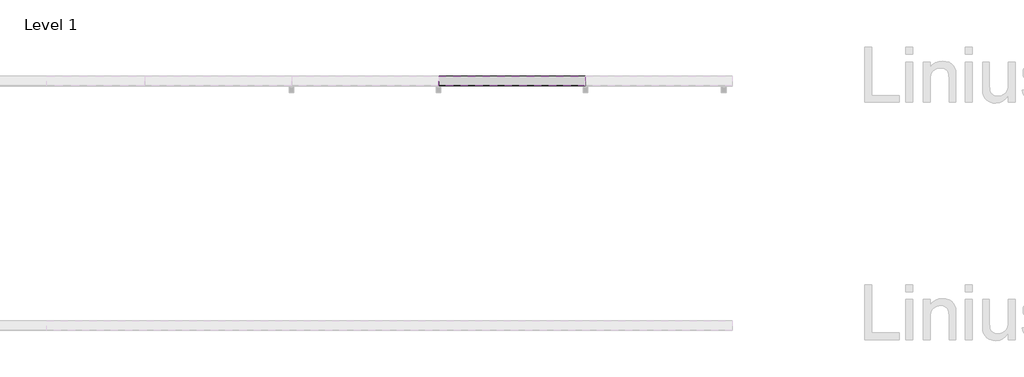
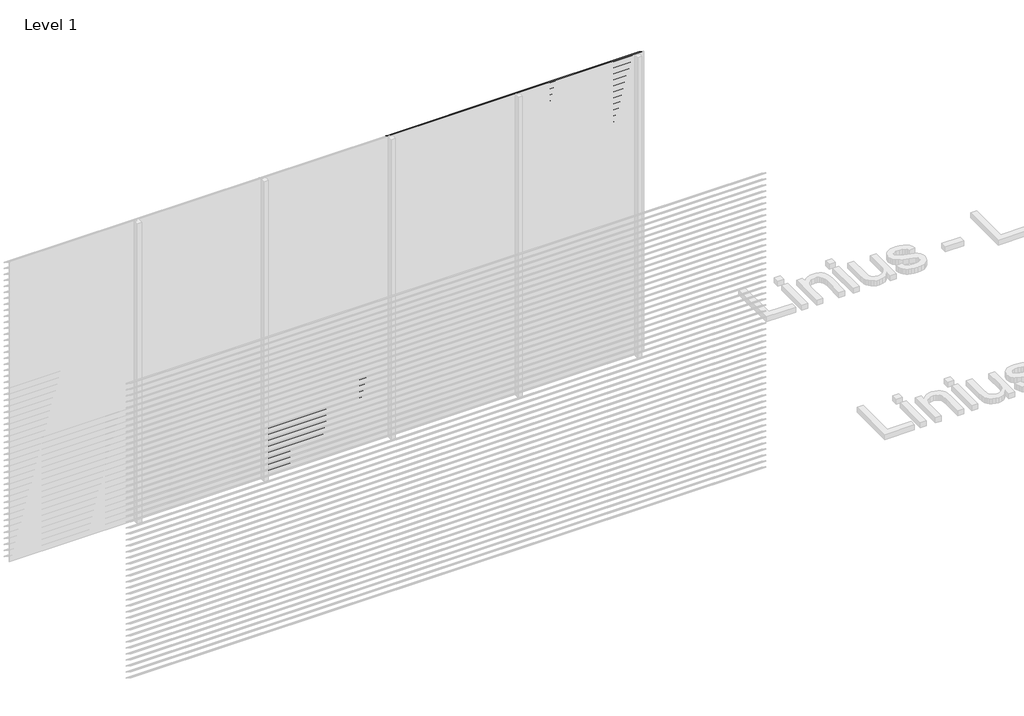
# One storey, part 68 of 153: 84 proxies.
"""IFC4 building model written with IfcOpenShell, lengths in millimetres."""

import ifcopenshell
import ifcopenshell.guid

model = None  # the IFC model being written
_history = None  # IfcOwnerHistory: only IFC2X3 demands one
_inside = {}  # id of a spatial element -> (the spatial element, [elements in it])
_under = {}  # id of a project, library or spatial element -> (it, [spatial elements below it])
_declared = {}  # id of a project -> (the project, [libraries it declares])
_typed = {}  # id of a type object -> (the type object, [elements of that type])
_made_of = {}  # id of a material, layer set ... -> (it, [elements and type objects made of it])


def new_model(schema):
    """Start an empty IFC model of exactly this schema.

    Asked for "IFC4X3", IfcOpenShell would pick the latest addendum, in which some entities
    have other attributes; the version numbers below select the first issue.
    IFC2X3 requires an IfcOwnerHistory on every rooted entity: one is made here for all.
    """
    global model, _history
    if schema == "IFC4X3":
        model = ifcopenshell.file(schema_version=(4, 3, 0, 0))
    else:
        model = ifcopenshell.file(schema=schema)
    _inside.clear()
    _under.clear()
    _declared.clear()
    _typed.clear()
    _made_of.clear()
    _history = None
    if model.schema == "IFC2X3":
        org = make("IfcOrganization", Name="unknown")
        user = make(
            "IfcPersonAndOrganization",
            ThePerson=make("IfcPerson", FamilyName="unknown"),
            TheOrganization=org,
        )
        app = make(
            "IfcApplication",
            ApplicationDeveloper=org,
            Version="unknown",
            ApplicationFullName="unknown",
            ApplicationIdentifier="unknown",
        )
        _history = make(
            "IfcOwnerHistory",
            OwningUser=user,
            OwningApplication=app,
            ChangeAction="ADDED",
            CreationDate=0,
        )
    return model


def make(cls, **values):
    """One entity of the class cls with the attributes given. An attribute that is None is left unset."""
    return model.create_entity(
        cls, **{name: value for name, value in values.items() if value is not None}
    )


def rooted(cls, **values):
    """An entity with a GlobalId (a new one), such as an element, a storey or a relation."""
    return make(cls, GlobalId=ifcopenshell.guid.new(), OwnerHistory=_history, **values)


def si_unit(unit_type, name, prefix=None):
    """IfcSIUnit, for example si_unit("LENGTHUNIT", "METRE", prefix="MILLI")."""
    return make("IfcSIUnit", UnitType=unit_type, Prefix=prefix, Name=name)


def assignment(units):
    """IfcUnitAssignment: the units of a project."""
    return None if units is None else make("IfcUnitAssignment", Units=units)


def point(xyz):
    """IfcCartesianPoint."""
    return None if xyz is None else make("IfcCartesianPoint", Coordinates=xyz)


def direction(xyz):
    """IfcDirection."""
    return None if xyz is None else make("IfcDirection", DirectionRatios=xyz)


def frame(location, z_axis=None, x_axis=None):
    """IfcAxis2Placement3D, a coordinate frame: its origin and axes. An axis left out is left unset."""
    return make(
        "IfcAxis2Placement3D",
        Location=point(location),
        Axis=direction(z_axis),
        RefDirection=direction(x_axis),
    )


def origin():
    """The frame at (0, 0, 0) with its axes left unset."""
    return frame((0.0, 0.0, 0.0))


def place(relative_to, where):
    """IfcLocalPlacement: puts the frame where relative to a parent placement (None: the world)."""
    return make(
        "IfcLocalPlacement", PlacementRelTo=relative_to, RelativePlacement=where
    )


def context(
    kind, dimensions, precision=None, world=None, true_north=None, identifier=None
):
    """IfcGeometricRepresentationContext, for example the 3D "Model" context."""
    return make(
        "IfcGeometricRepresentationContext",
        ContextIdentifier=identifier,
        ContextType=kind,
        CoordinateSpaceDimension=dimensions,
        Precision=precision,
        WorldCoordinateSystem=world,
        TrueNorth=true_north,
    )


def project(units=None, contexts=None):
    """IfcProject with its units and contexts."""
    return rooted(
        "IfcProject",
        Name="project",
        RepresentationContexts=contexts,
        UnitsInContext=assignment(units),
    )


def spatial(cls, under=None, at=None, **own):
    """A site, building, storey or space (cls), placed at a placement, below another one or the project."""
    s = rooted(cls, ObjectPlacement=at, **own)
    if under is not None:
        _under.setdefault(under.id(), (under, []))[1].append(s)
    return s


def polyline(points):
    """IfcPolyline through the points."""
    return make("IfcPolyline", Points=[point(p) for p in points])


def outline(outer, holes=None, kind="AREA"):
    """IfcArbitraryClosedProfileDef: a profile drawn as a closed curve; with holes, ...WithVoids."""
    if holes is None:
        return make("IfcArbitraryClosedProfileDef", ProfileType=kind, OuterCurve=outer)
    return make(
        "IfcArbitraryProfileDefWithVoids",
        ProfileType=kind,
        OuterCurve=outer,
        InnerCurves=holes,
    )


def extrude(swept, where, along, depth):
    """IfcExtrudedAreaSolid: the profile swept, set in the frame where, extruded along a direction by depth."""
    return make(
        "IfcExtrudedAreaSolid",
        SweptArea=swept,
        Position=where,
        ExtrudedDirection=direction(along),
        Depth=depth,
    )


def shape(context_of_items, identifier, shape_type, items):
    """IfcShapeRepresentation: the items that make up one representation, for example the "Body"."""
    return make(
        "IfcShapeRepresentation",
        ContextOfItems=context_of_items,
        RepresentationIdentifier=identifier,
        RepresentationType=shape_type,
        Items=items,
    )


def made_of(thing, what):
    """Note that an element or type object is made of a material, layer set ...; save() writes the relation."""
    if what is not None:
        _made_of.setdefault(what.id(), (what, []))[1].append(thing)
    return thing


def element(
    cls,
    number,
    at=None,
    inside=None,
    cuts=None,
    type_object=None,
    material=None,
    context=None,
    identifier="Body",
    shape_type=None,
    held_by="IfcProductDefinitionShape",
    body=None,
    shapes=None,
    **own,
):
    """One element of the class cls, such as IfcWall. Its Tag is "e" and its number.

    at: its placement. inside: the storey or other place that contains it. cuts: it is an
    opening in that element (IfcRelVoidsElement). A single representation is given by context,
    identifier, shape_type and body (its items); several are given by shapes. held_by: the class
    of the entity that holds the representations. save() writes the other relations.
    """
    e = rooted(cls, Tag="e%d" % number, ObjectPlacement=at, **own)
    if body is not None:
        shapes = [shape(context, identifier, shape_type, body)]
    if shapes is not None:
        e.Representation = make(held_by, Representations=shapes)
    if inside is not None:
        _inside.setdefault(inside.id(), (inside, []))[1].append(e)
    if cuts is not None:
        rooted(
            "IfcRelVoidsElement", RelatingBuildingElement=cuts, RelatedOpeningElement=e
        )
    if type_object is not None:
        _typed.setdefault(type_object.id(), (type_object, []))[1].append(e)
    return made_of(e, material)


def aggregate(whole, parts):
    """IfcRelAggregates: a whole, such as a stair, and the parts it consists of."""
    return rooted("IfcRelAggregates", RelatingObject=whole, RelatedObjects=parts)


def save(model, path):
    """Write the relations noted so far, then the file.

    IfcRelAggregates (storeys below a building ...), IfcRelContainedInSpatialStructure (elements
    in a storey), IfcRelDefinesByType, IfcRelAssociatesMaterial and IfcRelDeclares: one each for
    every whole, place, type object, material and project.
    """
    for whole, parts in _under.values():
        aggregate(whole, parts)
    for where, things in _inside.values():
        rooted(
            "IfcRelContainedInSpatialStructure",
            RelatedElements=things,
            RelatingStructure=where,
        )
    for kind, things in _typed.values():
        rooted("IfcRelDefinesByType", RelatedObjects=things, RelatingType=kind)
    for what, things in _made_of.values():
        rooted("IfcRelAssociatesMaterial", RelatedObjects=things, RelatingMaterial=what)
    for by, libraries in _declared.values():
        rooted("IfcRelDeclares", RelatingContext=by, RelatedDefinitions=libraries)
    model.write(path)


model = new_model("IFC4")

# Units and contexts
model_context = context("Model", 3, world=origin())
ifc_project = project(units=[si_unit("LENGTHUNIT", "METRE", prefix="MILLI")], contexts=[model_context])

# Site, building, storey
site = spatial("IfcSite", under=ifc_project)
building = spatial("IfcBuilding", under=site)
storey = spatial("IfcBuildingStorey", under=building, Name="Level 1", Elevation=0.0)

# Proxies
placement = place(None, origin())
element("IfcBuildingElementProxy", 1, Name="Wall Sweeps", at=placement, inside=storey, context=model_context, shape_type="SweptSolid", body=[
    extrude(outline(polyline([(36561.0540136, 786.0), (36561.0540136, 780.0), (36559.8040136, 780.7216933), (36559.8040136, 785.2538091), (36483.0540136, 833.9915103), (36483.0540136, 840.0), (36484.3040136, 840.0), (36484.3040136, 834.7377012), (36561.0540136, 786.0)])), frame((2866.6208097, 0.0, 0.0), z_axis=(1.0, 0.0, 0.0), x_axis=(0.0, 1.0, 0.0)), (0.0, 0.0, 1.0), 1199.9999999),
])
element("IfcBuildingElementProxy", 2, Name="Wall Sweeps", at=placement, inside=storey, context=model_context, shape_type="SweptSolid", body=[
    extrude(outline(polyline([(36561.0540136, 726.0), (36561.0540136, 720.0), (36559.8040136, 720.7216933), (36559.8040136, 725.2538091), (36483.0540136, 773.9915103), (36483.0540136, 780.0), (36484.3040136, 780.0), (36484.3040136, 774.7377012), (36561.0540136, 726.0)])), frame((2866.6208097, 0.0, 0.0), z_axis=(1.0, 0.0, 0.0), x_axis=(0.0, 1.0, 0.0)), (0.0, 0.0, 1.0), 1199.9999999),
])
element("IfcBuildingElementProxy", 3, Name="Wall Sweeps", at=placement, inside=storey, context=model_context, shape_type="SweptSolid", body=[
    extrude(outline(polyline([(36561.0540136, 666.0), (36561.0540136, 660.0), (36559.8040136, 660.7216933), (36559.8040136, 665.2538091), (36483.0540136, 713.9915103), (36483.0540136, 720.0), (36484.3040136, 720.0), (36484.3040136, 714.7377012), (36561.0540136, 666.0)])), frame((2866.6208097, 0.0, 0.0), z_axis=(1.0, 0.0, 0.0), x_axis=(0.0, 1.0, 0.0)), (0.0, 0.0, 1.0), 1199.9999999),
])
element("IfcBuildingElementProxy", 4, Name="Wall Sweeps", at=placement, inside=storey, context=model_context, shape_type="SweptSolid", body=[
    extrude(outline(polyline([(36561.0540136, 606.0), (36561.0540136, 600.0), (36559.8040136, 600.7216933), (36559.8040136, 605.2538091), (36483.0540136, 653.9915103), (36483.0540136, 660.0), (36484.3040136, 660.0), (36484.3040136, 654.7377012), (36561.0540136, 606.0)])), frame((2866.6208097, 0.0, 0.0), z_axis=(1.0, 0.0, 0.0), x_axis=(0.0, 1.0, 0.0)), (0.0, 0.0, 1.0), 1199.9999999),
])
element("IfcBuildingElementProxy", 5, Name="Wall Sweeps", at=placement, inside=storey, context=model_context, shape_type="SweptSolid", body=[
    extrude(outline(polyline([(36561.0540136, 546.0), (36561.0540136, 540.0), (36559.8040136, 540.7216933), (36559.8040136, 545.2538091), (36483.0540136, 593.9915103), (36483.0540136, 600.0), (36484.3040136, 600.0), (36484.3040136, 594.7377012), (36561.0540136, 546.0)])), frame((2866.6208097, 0.0, 0.0), z_axis=(1.0, 0.0, 0.0), x_axis=(0.0, 1.0, 0.0)), (0.0, 0.0, 1.0), 1199.9999999),
])
element("IfcBuildingElementProxy", 6, Name="Wall Sweeps", at=placement, inside=storey, context=model_context, shape_type="SweptSolid", body=[
    extrude(outline(polyline([(36561.0540136, 486.0), (36561.0540136, 480.0), (36559.8040136, 480.7216933), (36559.8040136, 485.2538091), (36483.0540136, 533.9915103), (36483.0540136, 540.0), (36484.3040136, 540.0), (36484.3040136, 534.7377012), (36561.0540136, 486.0)])), frame((2866.6208097, 0.0, 0.0), z_axis=(1.0, 0.0, 0.0), x_axis=(0.0, 1.0, 0.0)), (0.0, 0.0, 1.0), 1199.9999999),
])
element("IfcBuildingElementProxy", 7, Name="Wall Sweeps", at=placement, inside=storey, context=model_context, shape_type="SweptSolid", body=[
    extrude(outline(polyline([(36561.0540136, 426.0), (36561.0540136, 420.0), (36559.8040136, 420.7216933), (36559.8040136, 425.2538091), (36483.0540136, 473.9915103), (36483.0540136, 480.0), (36484.3040136, 480.0), (36484.3040136, 474.7377012), (36561.0540136, 426.0)])), frame((2866.6208097, 0.0, 0.0), z_axis=(1.0, 0.0, 0.0), x_axis=(0.0, 1.0, 0.0)), (0.0, 0.0, 1.0), 1199.9999999),
])
element("IfcBuildingElementProxy", 8, Name="Wall Sweeps", at=placement, inside=storey, context=model_context, shape_type="SweptSolid", body=[
    extrude(outline(polyline([(36561.0540136, 366.0), (36561.0540136, 360.0), (36559.8040136, 360.7216933), (36559.8040136, 365.2538091), (36483.0540136, 413.9915103), (36483.0540136, 420.0), (36484.3040136, 420.0), (36484.3040136, 414.7377012), (36561.0540136, 366.0)])), frame((2866.6208097, 0.0, 0.0), z_axis=(1.0, 0.0, 0.0), x_axis=(0.0, 1.0, 0.0)), (0.0, 0.0, 1.0), 1199.9999999),
])
element("IfcBuildingElementProxy", 9, Name="Wall Sweeps", at=placement, inside=storey, context=model_context, shape_type="SweptSolid", body=[
    extrude(outline(polyline([(36561.0540136, 306.0), (36561.0540136, 300.0), (36559.8040136, 300.7216933), (36559.8040136, 305.2538091), (36483.0540136, 353.9915103), (36483.0540136, 360.0), (36484.3040136, 360.0), (36484.3040136, 354.7377012), (36561.0540136, 306.0)])), frame((2866.6208097, 0.0, 0.0), z_axis=(1.0, 0.0, 0.0), x_axis=(0.0, 1.0, 0.0)), (0.0, 0.0, 1.0), 1199.9999999),
])
element("IfcBuildingElementProxy", 10, Name="Wall Sweeps", at=placement, inside=storey, context=model_context, shape_type="SweptSolid", body=[
    extrude(outline(polyline([(36561.0540136, 246.0), (36561.0540136, 240.0), (36559.8040136, 240.7216933), (36559.8040136, 245.2538091), (36483.0540136, 293.9915103), (36483.0540136, 300.0), (36484.3040136, 300.0), (36484.3040136, 294.7377012), (36561.0540136, 246.0)])), frame((2866.6208097, 0.0, 0.0), z_axis=(1.0, 0.0, 0.0), x_axis=(0.0, 1.0, 0.0)), (0.0, 0.0, 1.0), 1199.9999999),
])
element("IfcBuildingElementProxy", 11, Name="Wall Sweeps", at=placement, inside=storey, context=model_context, shape_type="SweptSolid", body=[
    extrude(outline(polyline([(36561.0540136, 186.0), (36561.0540136, 180.0), (36559.8040136, 180.7216933), (36559.8040136, 185.2538091), (36483.0540136, 233.9915103), (36483.0540136, 240.0), (36484.3040136, 240.0), (36484.3040136, 234.7377012), (36561.0540136, 186.0)])), frame((2866.6208097, 0.0, 0.0), z_axis=(1.0, 0.0, 0.0), x_axis=(0.0, 1.0, 0.0)), (0.0, 0.0, 1.0), 1199.9999999),
])
element("IfcBuildingElementProxy", 12, Name="Wall Sweeps", at=placement, inside=storey, context=model_context, shape_type="SweptSolid", body=[
    extrude(outline(polyline([(36561.0540136, 126.0), (36561.0540136, 120.0), (36559.8040136, 120.7216933), (36559.8040136, 125.2538091), (36483.0540136, 173.9915103), (36483.0540136, 180.0), (36484.3040136, 180.0), (36484.3040136, 174.7377012), (36561.0540136, 126.0)])), frame((2866.6208097, 0.0, 0.0), z_axis=(1.0, 0.0, 0.0), x_axis=(0.0, 1.0, 0.0)), (0.0, 0.0, 1.0), 1199.9999999),
])
element("IfcBuildingElementProxy", 13, Name="Wall Sweeps", at=placement, inside=storey, context=model_context, shape_type="SweptSolid", body=[
    extrude(outline(polyline([(36561.0540136, 66.0), (36561.0540136, 60.0), (36559.8040136, 60.7216933), (36559.8040136, 65.2538091), (36483.0540136, 113.9915103), (36483.0540136, 120.0), (36484.3040136, 120.0), (36484.3040136, 114.7377012), (36561.0540136, 66.0)])), frame((2866.6208097, 0.0, 0.0), z_axis=(1.0, 0.0, 0.0), x_axis=(0.0, 1.0, 0.0)), (0.0, 0.0, 1.0), 1199.9999999),
])
element("IfcBuildingElementProxy", 14, Name="Wall Sweeps", at=placement, inside=storey, context=model_context, shape_type="SweptSolid", body=[
    extrude(outline(polyline([(36561.0540136, 6.0), (36561.0540136, 0.0), (36559.8040136, 0.7216933), (36559.8040136, 5.2538091), (36483.0540136, 53.9915103), (36483.0540136, 60.0), (36484.3040136, 60.0), (36484.3040136, 54.7377012), (36561.0540136, 6.0)])), frame((2866.6208097, 0.0, 0.0), z_axis=(1.0, 0.0, 0.0), x_axis=(0.0, 1.0, 0.0)), (0.0, 0.0, 1.0), 1199.9999999),
])
element("IfcBuildingElementProxy", 15, Name="Wall Sweeps", at=placement, inside=storey, context=model_context, shape_type="SweptSolid", body=[
    extrude(outline(polyline([(36561.0540136, 2946.0), (36561.0540136, 2940.0), (36559.8040136, 2940.7216933), (36559.8040136, 2945.2538091), (36483.0540136, 2993.9915103), (36483.0540136, 3000.0), (36484.3040136, 3000.0), (36484.3040136, 2994.7377012), (36561.0540136, 2946.0)])), frame((4066.6208096, 0.0, 0.0), z_axis=(1.0, 0.0, 0.0), x_axis=(0.0, 1.0, 0.0)), (0.0, 0.0, 1.0), 1199.9999999),
])
element("IfcBuildingElementProxy", 16, Name="Wall Sweeps", at=placement, inside=storey, context=model_context, shape_type="SweptSolid", body=[
    extrude(outline(polyline([(36561.0540136, 2886.0), (36561.0540136, 2880.0), (36559.8040136, 2880.7216933), (36559.8040136, 2885.2538091), (36483.0540136, 2933.9915103), (36483.0540136, 2940.0), (36484.3040136, 2940.0), (36484.3040136, 2934.7377012), (36561.0540136, 2886.0)])), frame((4066.6208096, 0.0, 0.0), z_axis=(1.0, 0.0, 0.0), x_axis=(0.0, 1.0, 0.0)), (0.0, 0.0, 1.0), 1199.9999999),
])
element("IfcBuildingElementProxy", 17, Name="Wall Sweeps", at=placement, inside=storey, context=model_context, shape_type="SweptSolid", body=[
    extrude(outline(polyline([(36561.0540136, 2826.0), (36561.0540136, 2820.0), (36559.8040136, 2820.7216933), (36559.8040136, 2825.2538091), (36483.0540136, 2873.9915103), (36483.0540136, 2880.0), (36484.3040136, 2880.0), (36484.3040136, 2874.7377012), (36561.0540136, 2826.0)])), frame((4066.6208096, 0.0, 0.0), z_axis=(1.0, 0.0, 0.0), x_axis=(0.0, 1.0, 0.0)), (0.0, 0.0, 1.0), 1199.9999999),
])
element("IfcBuildingElementProxy", 18, Name="Wall Sweeps", at=placement, inside=storey, context=model_context, shape_type="SweptSolid", body=[
    extrude(outline(polyline([(36561.0540136, 2766.0), (36561.0540136, 2760.0), (36559.8040136, 2760.7216933), (36559.8040136, 2765.2538091), (36483.0540136, 2813.9915103), (36483.0540136, 2820.0), (36484.3040136, 2820.0), (36484.3040136, 2814.7377012), (36561.0540136, 2766.0)])), frame((4066.6208096, 0.0, 0.0), z_axis=(1.0, 0.0, 0.0), x_axis=(0.0, 1.0, 0.0)), (0.0, 0.0, 1.0), 1199.9999999),
])
element("IfcBuildingElementProxy", 19, Name="Wall Sweeps", at=placement, inside=storey, context=model_context, shape_type="SweptSolid", body=[
    extrude(outline(polyline([(36561.0540136, 2706.0), (36561.0540136, 2700.0), (36559.8040136, 2700.7216933), (36559.8040136, 2705.2538091), (36483.0540136, 2753.9915103), (36483.0540136, 2760.0), (36484.3040136, 2760.0), (36484.3040136, 2754.7377012), (36561.0540136, 2706.0)])), frame((4066.6208096, 0.0, 0.0), z_axis=(1.0, 0.0, 0.0), x_axis=(0.0, 1.0, 0.0)), (0.0, 0.0, 1.0), 1199.9999999),
])
element("IfcBuildingElementProxy", 20, Name="Wall Sweeps", at=placement, inside=storey, context=model_context, shape_type="SweptSolid", body=[
    extrude(outline(polyline([(36561.0540136, 2646.0), (36561.0540136, 2640.0), (36559.8040136, 2640.7216933), (36559.8040136, 2645.2538091), (36483.0540136, 2693.9915103), (36483.0540136, 2700.0), (36484.3040136, 2700.0), (36484.3040136, 2694.7377012), (36561.0540136, 2646.0)])), frame((4066.6208096, 0.0, 0.0), z_axis=(1.0, 0.0, 0.0), x_axis=(0.0, 1.0, 0.0)), (0.0, 0.0, 1.0), 1199.9999999),
])
element("IfcBuildingElementProxy", 21, Name="Wall Sweeps", at=placement, inside=storey, context=model_context, shape_type="SweptSolid", body=[
    extrude(outline(polyline([(36561.0540136, 2586.0), (36561.0540136, 2580.0), (36559.8040136, 2580.7216933), (36559.8040136, 2585.2538091), (36483.0540136, 2633.9915103), (36483.0540136, 2640.0), (36484.3040136, 2640.0), (36484.3040136, 2634.7377012), (36561.0540136, 2586.0)])), frame((4066.6208096, 0.0, 0.0), z_axis=(1.0, 0.0, 0.0), x_axis=(0.0, 1.0, 0.0)), (0.0, 0.0, 1.0), 1199.9999999),
])
element("IfcBuildingElementProxy", 22, Name="Wall Sweeps", at=placement, inside=storey, context=model_context, shape_type="SweptSolid", body=[
    extrude(outline(polyline([(36561.0540136, 2526.0), (36561.0540136, 2520.0), (36559.8040136, 2520.7216933), (36559.8040136, 2525.2538091), (36483.0540136, 2573.9915103), (36483.0540136, 2580.0), (36484.3040136, 2580.0), (36484.3040136, 2574.7377012), (36561.0540136, 2526.0)])), frame((4066.6208096, 0.0, 0.0), z_axis=(1.0, 0.0, 0.0), x_axis=(0.0, 1.0, 0.0)), (0.0, 0.0, 1.0), 1199.9999999),
])
element("IfcBuildingElementProxy", 23, Name="Wall Sweeps", at=placement, inside=storey, context=model_context, shape_type="SweptSolid", body=[
    extrude(outline(polyline([(36561.0540136, 2466.0), (36561.0540136, 2460.0), (36559.8040136, 2460.7216933), (36559.8040136, 2465.2538091), (36483.0540136, 2513.9915103), (36483.0540136, 2520.0), (36484.3040136, 2520.0), (36484.3040136, 2514.7377012), (36561.0540136, 2466.0)])), frame((4066.6208096, 0.0, 0.0), z_axis=(1.0, 0.0, 0.0), x_axis=(0.0, 1.0, 0.0)), (0.0, 0.0, 1.0), 1199.9999999),
])
element("IfcBuildingElementProxy", 24, Name="Wall Sweeps", at=placement, inside=storey, context=model_context, shape_type="SweptSolid", body=[
    extrude(outline(polyline([(36561.0540136, 2406.0), (36561.0540136, 2400.0), (36559.8040136, 2400.7216933), (36559.8040136, 2405.2538091), (36483.0540136, 2453.9915103), (36483.0540136, 2460.0), (36484.3040136, 2460.0), (36484.3040136, 2454.7377012), (36561.0540136, 2406.0)])), frame((4066.6208096, 0.0, 0.0), z_axis=(1.0, 0.0, 0.0), x_axis=(0.0, 1.0, 0.0)), (0.0, 0.0, 1.0), 1199.9999999),
])
element("IfcBuildingElementProxy", 25, Name="Wall Sweeps", at=placement, inside=storey, context=model_context, shape_type="SweptSolid", body=[
    extrude(outline(polyline([(36561.0540136, 2346.0), (36561.0540136, 2340.0), (36559.8040136, 2340.7216933), (36559.8040136, 2345.2538091), (36483.0540136, 2393.9915103), (36483.0540136, 2400.0), (36484.3040136, 2400.0), (36484.3040136, 2394.7377012), (36561.0540136, 2346.0)])), frame((4066.6208096, 0.0, 0.0), z_axis=(1.0, 0.0, 0.0), x_axis=(0.0, 1.0, 0.0)), (0.0, 0.0, 1.0), 1199.9999999),
])
element("IfcBuildingElementProxy", 26, Name="Wall Sweeps", at=placement, inside=storey, context=model_context, shape_type="SweptSolid", body=[
    extrude(outline(polyline([(36561.0540136, 2286.0), (36561.0540136, 2280.0), (36559.8040136, 2280.7216933), (36559.8040136, 2285.2538091), (36483.0540136, 2333.9915103), (36483.0540136, 2340.0), (36484.3040136, 2340.0), (36484.3040136, 2334.7377012), (36561.0540136, 2286.0)])), frame((4066.6208096, 0.0, 0.0), z_axis=(1.0, 0.0, 0.0), x_axis=(0.0, 1.0, 0.0)), (0.0, 0.0, 1.0), 1199.9999999),
])
element("IfcBuildingElementProxy", 27, Name="Wall Sweeps", at=placement, inside=storey, context=model_context, shape_type="SweptSolid", body=[
    extrude(outline(polyline([(36561.0540136, 2226.0), (36561.0540136, 2220.0), (36559.8040136, 2220.7216933), (36559.8040136, 2225.2538091), (36483.0540136, 2273.9915103), (36483.0540136, 2280.0), (36484.3040136, 2280.0), (36484.3040136, 2274.7377012), (36561.0540136, 2226.0)])), frame((4066.6208096, 0.0, 0.0), z_axis=(1.0, 0.0, 0.0), x_axis=(0.0, 1.0, 0.0)), (0.0, 0.0, 1.0), 1199.9999999),
])
element("IfcBuildingElementProxy", 28, Name="Wall Sweeps", at=placement, inside=storey, context=model_context, shape_type="SweptSolid", body=[
    extrude(outline(polyline([(36561.0540136, 2166.0), (36561.0540136, 2160.0), (36559.8040136, 2160.7216933), (36559.8040136, 2165.2538091), (36483.0540136, 2213.9915103), (36483.0540136, 2220.0), (36484.3040136, 2220.0), (36484.3040136, 2214.7377012), (36561.0540136, 2166.0)])), frame((4066.6208096, 0.0, 0.0), z_axis=(1.0, 0.0, 0.0), x_axis=(0.0, 1.0, 0.0)), (0.0, 0.0, 1.0), 1199.9999999),
])
element("IfcBuildingElementProxy", 29, Name="Wall Sweeps", at=placement, inside=storey, context=model_context, shape_type="SweptSolid", body=[
    extrude(outline(polyline([(36561.0540136, 2106.0), (36561.0540136, 2100.0), (36559.8040136, 2100.7216933), (36559.8040136, 2105.2538091), (36483.0540136, 2153.9915103), (36483.0540136, 2160.0), (36484.3040136, 2160.0), (36484.3040136, 2154.7377012), (36561.0540136, 2106.0)])), frame((4066.6208096, 0.0, 0.0), z_axis=(1.0, 0.0, 0.0), x_axis=(0.0, 1.0, 0.0)), (0.0, 0.0, 1.0), 1199.9999999),
])
element("IfcBuildingElementProxy", 30, Name="Wall Sweeps", at=placement, inside=storey, context=model_context, shape_type="SweptSolid", body=[
    extrude(outline(polyline([(36561.0540136, 2046.0), (36561.0540136, 2040.0), (36559.8040136, 2040.7216933), (36559.8040136, 2045.2538091), (36483.0540136, 2093.9915103), (36483.0540136, 2100.0), (36484.3040136, 2100.0), (36484.3040136, 2094.7377012), (36561.0540136, 2046.0)])), frame((4066.6208096, 0.0, 0.0), z_axis=(1.0, 0.0, 0.0), x_axis=(0.0, 1.0, 0.0)), (0.0, 0.0, 1.0), 1199.9999999),
])
element("IfcBuildingElementProxy", 31, Name="Wall Sweeps", at=placement, inside=storey, context=model_context, shape_type="SweptSolid", body=[
    extrude(outline(polyline([(36561.0540136, 1986.0), (36561.0540136, 1980.0), (36559.8040136, 1980.7216933), (36559.8040136, 1985.2538091), (36483.0540136, 2033.9915103), (36483.0540136, 2040.0), (36484.3040136, 2040.0), (36484.3040136, 2034.7377012), (36561.0540136, 1986.0)])), frame((4066.6208096, 0.0, 0.0), z_axis=(1.0, 0.0, 0.0), x_axis=(0.0, 1.0, 0.0)), (0.0, 0.0, 1.0), 1199.9999999),
])
element("IfcBuildingElementProxy", 32, Name="Wall Sweeps", at=placement, inside=storey, context=model_context, shape_type="SweptSolid", body=[
    extrude(outline(polyline([(36561.0540136, 1926.0), (36561.0540136, 1920.0), (36559.8040136, 1920.7216933), (36559.8040136, 1925.2538091), (36483.0540136, 1973.9915103), (36483.0540136, 1980.0), (36484.3040136, 1980.0), (36484.3040136, 1974.7377012), (36561.0540136, 1926.0)])), frame((4066.6208096, 0.0, 0.0), z_axis=(1.0, 0.0, 0.0), x_axis=(0.0, 1.0, 0.0)), (0.0, 0.0, 1.0), 1199.9999999),
])
element("IfcBuildingElementProxy", 33, Name="Wall Sweeps", at=placement, inside=storey, context=model_context, shape_type="SweptSolid", body=[
    extrude(outline(polyline([(36561.0540136, 1866.0), (36561.0540136, 1860.0), (36559.8040136, 1860.7216933), (36559.8040136, 1865.2538091), (36483.0540136, 1913.9915103), (36483.0540136, 1920.0), (36484.3040136, 1920.0), (36484.3040136, 1914.7377012), (36561.0540136, 1866.0)])), frame((4066.6208096, 0.0, 0.0), z_axis=(1.0, 0.0, 0.0), x_axis=(0.0, 1.0, 0.0)), (0.0, 0.0, 1.0), 1199.9999999),
])
element("IfcBuildingElementProxy", 34, Name="Wall Sweeps", at=placement, inside=storey, context=model_context, shape_type="SweptSolid", body=[
    extrude(outline(polyline([(36561.0540136, 1806.0), (36561.0540136, 1800.0), (36559.8040136, 1800.7216933), (36559.8040136, 1805.2538091), (36483.0540136, 1853.9915103), (36483.0540136, 1860.0), (36484.3040136, 1860.0), (36484.3040136, 1854.7377012), (36561.0540136, 1806.0)])), frame((4066.6208096, 0.0, 0.0), z_axis=(1.0, 0.0, 0.0), x_axis=(0.0, 1.0, 0.0)), (0.0, 0.0, 1.0), 1199.9999999),
])
element("IfcBuildingElementProxy", 35, Name="Wall Sweeps", at=placement, inside=storey, context=model_context, shape_type="SweptSolid", body=[
    extrude(outline(polyline([(36561.0540136, 1746.0), (36561.0540136, 1740.0), (36559.8040136, 1740.7216933), (36559.8040136, 1745.2538091), (36483.0540136, 1793.9915103), (36483.0540136, 1800.0), (36484.3040136, 1800.0), (36484.3040136, 1794.7377012), (36561.0540136, 1746.0)])), frame((4066.6208096, 0.0, 0.0), z_axis=(1.0, 0.0, 0.0), x_axis=(0.0, 1.0, 0.0)), (0.0, 0.0, 1.0), 1199.9999999),
])
element("IfcBuildingElementProxy", 36, Name="Wall Sweeps", at=placement, inside=storey, context=model_context, shape_type="SweptSolid", body=[
    extrude(outline(polyline([(36561.0540136, 1686.0), (36561.0540136, 1680.0), (36559.8040136, 1680.7216933), (36559.8040136, 1685.2538091), (36483.0540136, 1733.9915103), (36483.0540136, 1740.0), (36484.3040136, 1740.0), (36484.3040136, 1734.7377012), (36561.0540136, 1686.0)])), frame((4066.6208096, 0.0, 0.0), z_axis=(1.0, 0.0, 0.0), x_axis=(0.0, 1.0, 0.0)), (0.0, 0.0, 1.0), 1199.9999999),
])
element("IfcBuildingElementProxy", 37, Name="Wall Sweeps", at=placement, inside=storey, context=model_context, shape_type="SweptSolid", body=[
    extrude(outline(polyline([(36561.0540136, 1626.0), (36561.0540136, 1620.0), (36559.8040136, 1620.7216933), (36559.8040136, 1625.2538091), (36483.0540136, 1673.9915103), (36483.0540136, 1680.0), (36484.3040136, 1680.0), (36484.3040136, 1674.7377012), (36561.0540136, 1626.0)])), frame((4066.6208096, 0.0, 0.0), z_axis=(1.0, 0.0, 0.0), x_axis=(0.0, 1.0, 0.0)), (0.0, 0.0, 1.0), 1199.9999999),
])
element("IfcBuildingElementProxy", 38, Name="Wall Sweeps", at=placement, inside=storey, context=model_context, shape_type="SweptSolid", body=[
    extrude(outline(polyline([(36561.0540136, 1566.0), (36561.0540136, 1560.0), (36559.8040136, 1560.7216933), (36559.8040136, 1565.2538091), (36483.0540136, 1613.9915103), (36483.0540136, 1620.0), (36484.3040136, 1620.0), (36484.3040136, 1614.7377012), (36561.0540136, 1566.0)])), frame((4066.6208096, 0.0, 0.0), z_axis=(1.0, 0.0, 0.0), x_axis=(0.0, 1.0, 0.0)), (0.0, 0.0, 1.0), 1199.9999999),
])
element("IfcBuildingElementProxy", 39, Name="Wall Sweeps", at=placement, inside=storey, context=model_context, shape_type="SweptSolid", body=[
    extrude(outline(polyline([(36561.0540136, 1506.0), (36561.0540136, 1500.0), (36559.8040136, 1500.7216933), (36559.8040136, 1505.2538091), (36483.0540136, 1553.9915103), (36483.0540136, 1560.0), (36484.3040136, 1560.0), (36484.3040136, 1554.7377012), (36561.0540136, 1506.0)])), frame((4066.6208096, 0.0, 0.0), z_axis=(1.0, 0.0, 0.0), x_axis=(0.0, 1.0, 0.0)), (0.0, 0.0, 1.0), 1199.9999999),
])
element("IfcBuildingElementProxy", 40, Name="Wall Sweeps", at=placement, inside=storey, context=model_context, shape_type="SweptSolid", body=[
    extrude(outline(polyline([(36561.0540136, 1446.0), (36561.0540136, 1440.0), (36559.8040136, 1440.7216933), (36559.8040136, 1445.2538091), (36483.0540136, 1493.9915103), (36483.0540136, 1500.0), (36484.3040136, 1500.0), (36484.3040136, 1494.7377012), (36561.0540136, 1446.0)])), frame((4066.6208096, 0.0, 0.0), z_axis=(1.0, 0.0, 0.0), x_axis=(0.0, 1.0, 0.0)), (0.0, 0.0, 1.0), 1199.9999999),
])
element("IfcBuildingElementProxy", 41, Name="Wall Sweeps", at=placement, inside=storey, context=model_context, shape_type="SweptSolid", body=[
    extrude(outline(polyline([(36561.0540136, 1386.0), (36561.0540136, 1380.0), (36559.8040136, 1380.7216933), (36559.8040136, 1385.2538091), (36483.0540136, 1433.9915103), (36483.0540136, 1440.0), (36484.3040136, 1440.0), (36484.3040136, 1434.7377012), (36561.0540136, 1386.0)])), frame((4066.6208096, 0.0, 0.0), z_axis=(1.0, 0.0, 0.0), x_axis=(0.0, 1.0, 0.0)), (0.0, 0.0, 1.0), 1199.9999999),
])
element("IfcBuildingElementProxy", 42, Name="Wall Sweeps", at=placement, inside=storey, context=model_context, shape_type="SweptSolid", body=[
    extrude(outline(polyline([(36561.0540136, 1326.0), (36561.0540136, 1320.0), (36559.8040136, 1320.7216933), (36559.8040136, 1325.2538091), (36483.0540136, 1373.9915103), (36483.0540136, 1380.0), (36484.3040136, 1380.0), (36484.3040136, 1374.7377012), (36561.0540136, 1326.0)])), frame((4066.6208096, 0.0, 0.0), z_axis=(1.0, 0.0, 0.0), x_axis=(0.0, 1.0, 0.0)), (0.0, 0.0, 1.0), 1199.9999999),
])
element("IfcBuildingElementProxy", 43, Name="Wall Sweeps", at=placement, inside=storey, context=model_context, shape_type="SweptSolid", body=[
    extrude(outline(polyline([(36561.0540136, 1266.0), (36561.0540136, 1260.0), (36559.8040136, 1260.7216933), (36559.8040136, 1265.2538091), (36483.0540136, 1313.9915103), (36483.0540136, 1320.0), (36484.3040136, 1320.0), (36484.3040136, 1314.7377012), (36561.0540136, 1266.0)])), frame((4066.6208096, 0.0, 0.0), z_axis=(1.0, 0.0, 0.0), x_axis=(0.0, 1.0, 0.0)), (0.0, 0.0, 1.0), 1199.9999999),
])
element("IfcBuildingElementProxy", 44, Name="Wall Sweeps", at=placement, inside=storey, context=model_context, shape_type="SweptSolid", body=[
    extrude(outline(polyline([(36561.0540136, 1206.0), (36561.0540136, 1200.0), (36559.8040136, 1200.7216933), (36559.8040136, 1205.2538091), (36483.0540136, 1253.9915103), (36483.0540136, 1260.0), (36484.3040136, 1260.0), (36484.3040136, 1254.7377012), (36561.0540136, 1206.0)])), frame((4066.6208096, 0.0, 0.0), z_axis=(1.0, 0.0, 0.0), x_axis=(0.0, 1.0, 0.0)), (0.0, 0.0, 1.0), 1199.9999999),
])
element("IfcBuildingElementProxy", 45, Name="Wall Sweeps", at=placement, inside=storey, context=model_context, shape_type="SweptSolid", body=[
    extrude(outline(polyline([(36561.0540136, 1146.0), (36561.0540136, 1140.0), (36559.8040136, 1140.7216933), (36559.8040136, 1145.2538091), (36483.0540136, 1193.9915103), (36483.0540136, 1200.0), (36484.3040136, 1200.0), (36484.3040136, 1194.7377012), (36561.0540136, 1146.0)])), frame((4066.6208096, 0.0, 0.0), z_axis=(1.0, 0.0, 0.0), x_axis=(0.0, 1.0, 0.0)), (0.0, 0.0, 1.0), 1199.9999999),
])
element("IfcBuildingElementProxy", 46, Name="Wall Sweeps", at=placement, inside=storey, context=model_context, shape_type="SweptSolid", body=[
    extrude(outline(polyline([(36561.0540136, 1086.0), (36561.0540136, 1080.0), (36559.8040136, 1080.7216933), (36559.8040136, 1085.2538091), (36483.0540136, 1133.9915103), (36483.0540136, 1140.0), (36484.3040136, 1140.0), (36484.3040136, 1134.7377012), (36561.0540136, 1086.0)])), frame((4066.6208096, 0.0, 0.0), z_axis=(1.0, 0.0, 0.0), x_axis=(0.0, 1.0, 0.0)), (0.0, 0.0, 1.0), 1199.9999999),
])
element("IfcBuildingElementProxy", 47, Name="Wall Sweeps", at=placement, inside=storey, context=model_context, shape_type="SweptSolid", body=[
    extrude(outline(polyline([(36561.0540136, 1026.0), (36561.0540136, 1020.0), (36559.8040136, 1020.7216933), (36559.8040136, 1025.2538091), (36483.0540136, 1073.9915103), (36483.0540136, 1080.0), (36484.3040136, 1080.0), (36484.3040136, 1074.7377012), (36561.0540136, 1026.0)])), frame((4066.6208096, 0.0, 0.0), z_axis=(1.0, 0.0, 0.0), x_axis=(0.0, 1.0, 0.0)), (0.0, 0.0, 1.0), 1199.9999999),
])
element("IfcBuildingElementProxy", 48, Name="Wall Sweeps", at=placement, inside=storey, context=model_context, shape_type="SweptSolid", body=[
    extrude(outline(polyline([(36561.0540136, 966.0), (36561.0540136, 960.0), (36559.8040136, 960.7216933), (36559.8040136, 965.2538091), (36483.0540136, 1013.9915103), (36483.0540136, 1020.0), (36484.3040136, 1020.0), (36484.3040136, 1014.7377012), (36561.0540136, 966.0)])), frame((4066.6208096, 0.0, 0.0), z_axis=(1.0, 0.0, 0.0), x_axis=(0.0, 1.0, 0.0)), (0.0, 0.0, 1.0), 1199.9999999),
])
element("IfcBuildingElementProxy", 49, Name="Wall Sweeps", at=placement, inside=storey, context=model_context, shape_type="SweptSolid", body=[
    extrude(outline(polyline([(36561.0540136, 906.0), (36561.0540136, 900.0), (36559.8040136, 900.7216933), (36559.8040136, 905.2538091), (36483.0540136, 953.9915103), (36483.0540136, 960.0), (36484.3040136, 960.0), (36484.3040136, 954.7377012), (36561.0540136, 906.0)])), frame((4066.6208096, 0.0, 0.0), z_axis=(1.0, 0.0, 0.0), x_axis=(0.0, 1.0, 0.0)), (0.0, 0.0, 1.0), 1199.9999999),
])
element("IfcBuildingElementProxy", 50, Name="Wall Sweeps", at=placement, inside=storey, context=model_context, shape_type="SweptSolid", body=[
    extrude(outline(polyline([(36561.0540136, 846.0), (36561.0540136, 840.0), (36559.8040136, 840.7216933), (36559.8040136, 845.2538091), (36483.0540136, 893.9915103), (36483.0540136, 900.0), (36484.3040136, 900.0), (36484.3040136, 894.7377012), (36561.0540136, 846.0)])), frame((4066.6208096, 0.0, 0.0), z_axis=(1.0, 0.0, 0.0), x_axis=(0.0, 1.0, 0.0)), (0.0, 0.0, 1.0), 1199.9999999),
])
element("IfcBuildingElementProxy", 51, Name="Wall Sweeps", at=placement, inside=storey, context=model_context, shape_type="SweptSolid", body=[
    extrude(outline(polyline([(36561.0540136, 786.0), (36561.0540136, 780.0), (36559.8040136, 780.7216933), (36559.8040136, 785.2538091), (36483.0540136, 833.9915103), (36483.0540136, 840.0), (36484.3040136, 840.0), (36484.3040136, 834.7377012), (36561.0540136, 786.0)])), frame((4066.6208096, 0.0, 0.0), z_axis=(1.0, 0.0, 0.0), x_axis=(0.0, 1.0, 0.0)), (0.0, 0.0, 1.0), 1199.9999999),
])
element("IfcBuildingElementProxy", 52, Name="Wall Sweeps", at=placement, inside=storey, context=model_context, shape_type="SweptSolid", body=[
    extrude(outline(polyline([(36561.0540136, 726.0), (36561.0540136, 720.0), (36559.8040136, 720.7216933), (36559.8040136, 725.2538091), (36483.0540136, 773.9915103), (36483.0540136, 780.0), (36484.3040136, 780.0), (36484.3040136, 774.7377012), (36561.0540136, 726.0)])), frame((4066.6208096, 0.0, 0.0), z_axis=(1.0, 0.0, 0.0), x_axis=(0.0, 1.0, 0.0)), (0.0, 0.0, 1.0), 1199.9999999),
])
element("IfcBuildingElementProxy", 53, Name="Wall Sweeps", at=placement, inside=storey, context=model_context, shape_type="SweptSolid", body=[
    extrude(outline(polyline([(36561.0540136, 666.0), (36561.0540136, 660.0), (36559.8040136, 660.7216933), (36559.8040136, 665.2538091), (36483.0540136, 713.9915103), (36483.0540136, 720.0), (36484.3040136, 720.0), (36484.3040136, 714.7377012), (36561.0540136, 666.0)])), frame((4066.6208096, 0.0, 0.0), z_axis=(1.0, 0.0, 0.0), x_axis=(0.0, 1.0, 0.0)), (0.0, 0.0, 1.0), 1199.9999999),
])
element("IfcBuildingElementProxy", 54, Name="Wall Sweeps", at=placement, inside=storey, context=model_context, shape_type="SweptSolid", body=[
    extrude(outline(polyline([(36561.0540136, 606.0), (36561.0540136, 600.0), (36559.8040136, 600.7216933), (36559.8040136, 605.2538091), (36483.0540136, 653.9915103), (36483.0540136, 660.0), (36484.3040136, 660.0), (36484.3040136, 654.7377012), (36561.0540136, 606.0)])), frame((4066.6208096, 0.0, 0.0), z_axis=(1.0, 0.0, 0.0), x_axis=(0.0, 1.0, 0.0)), (0.0, 0.0, 1.0), 1199.9999999),
])
element("IfcBuildingElementProxy", 55, Name="Wall Sweeps", at=placement, inside=storey, context=model_context, shape_type="SweptSolid", body=[
    extrude(outline(polyline([(36561.0540136, 546.0), (36561.0540136, 540.0), (36559.8040136, 540.7216933), (36559.8040136, 545.2538091), (36483.0540136, 593.9915103), (36483.0540136, 600.0), (36484.3040136, 600.0), (36484.3040136, 594.7377012), (36561.0540136, 546.0)])), frame((4066.6208096, 0.0, 0.0), z_axis=(1.0, 0.0, 0.0), x_axis=(0.0, 1.0, 0.0)), (0.0, 0.0, 1.0), 1199.9999999),
])
element("IfcBuildingElementProxy", 56, Name="Wall Sweeps", at=placement, inside=storey, context=model_context, shape_type="SweptSolid", body=[
    extrude(outline(polyline([(36561.0540136, 486.0), (36561.0540136, 480.0), (36559.8040136, 480.7216933), (36559.8040136, 485.2538091), (36483.0540136, 533.9915103), (36483.0540136, 540.0), (36484.3040136, 540.0), (36484.3040136, 534.7377012), (36561.0540136, 486.0)])), frame((4066.6208096, 0.0, 0.0), z_axis=(1.0, 0.0, 0.0), x_axis=(0.0, 1.0, 0.0)), (0.0, 0.0, 1.0), 1199.9999999),
])
element("IfcBuildingElementProxy", 57, Name="Wall Sweeps", at=placement, inside=storey, context=model_context, shape_type="SweptSolid", body=[
    extrude(outline(polyline([(36561.0540136, 426.0), (36561.0540136, 420.0), (36559.8040136, 420.7216933), (36559.8040136, 425.2538091), (36483.0540136, 473.9915103), (36483.0540136, 480.0), (36484.3040136, 480.0), (36484.3040136, 474.7377012), (36561.0540136, 426.0)])), frame((4066.6208096, 0.0, 0.0), z_axis=(1.0, 0.0, 0.0), x_axis=(0.0, 1.0, 0.0)), (0.0, 0.0, 1.0), 1199.9999999),
])
element("IfcBuildingElementProxy", 58, Name="Wall Sweeps", at=placement, inside=storey, context=model_context, shape_type="SweptSolid", body=[
    extrude(outline(polyline([(36561.0540136, 366.0), (36561.0540136, 360.0), (36559.8040136, 360.7216933), (36559.8040136, 365.2538091), (36483.0540136, 413.9915103), (36483.0540136, 420.0), (36484.3040136, 420.0), (36484.3040136, 414.7377012), (36561.0540136, 366.0)])), frame((4066.6208096, 0.0, 0.0), z_axis=(1.0, 0.0, 0.0), x_axis=(0.0, 1.0, 0.0)), (0.0, 0.0, 1.0), 1199.9999999),
])
element("IfcBuildingElementProxy", 59, Name="Wall Sweeps", at=placement, inside=storey, context=model_context, shape_type="SweptSolid", body=[
    extrude(outline(polyline([(36561.0540136, 306.0), (36561.0540136, 300.0), (36559.8040136, 300.7216933), (36559.8040136, 305.2538091), (36483.0540136, 353.9915103), (36483.0540136, 360.0), (36484.3040136, 360.0), (36484.3040136, 354.7377012), (36561.0540136, 306.0)])), frame((4066.6208096, 0.0, 0.0), z_axis=(1.0, 0.0, 0.0), x_axis=(0.0, 1.0, 0.0)), (0.0, 0.0, 1.0), 1199.9999999),
])
element("IfcBuildingElementProxy", 60, Name="Wall Sweeps", at=placement, inside=storey, context=model_context, shape_type="SweptSolid", body=[
    extrude(outline(polyline([(36561.0540136, 246.0), (36561.0540136, 240.0), (36559.8040136, 240.7216933), (36559.8040136, 245.2538091), (36483.0540136, 293.9915103), (36483.0540136, 300.0), (36484.3040136, 300.0), (36484.3040136, 294.7377012), (36561.0540136, 246.0)])), frame((4066.6208096, 0.0, 0.0), z_axis=(1.0, 0.0, 0.0), x_axis=(0.0, 1.0, 0.0)), (0.0, 0.0, 1.0), 1199.9999999),
])
element("IfcBuildingElementProxy", 61, Name="Wall Sweeps", at=placement, inside=storey, context=model_context, shape_type="SweptSolid", body=[
    extrude(outline(polyline([(36561.0540136, 186.0), (36561.0540136, 180.0), (36559.8040136, 180.7216933), (36559.8040136, 185.2538091), (36483.0540136, 233.9915103), (36483.0540136, 240.0), (36484.3040136, 240.0), (36484.3040136, 234.7377012), (36561.0540136, 186.0)])), frame((4066.6208096, 0.0, 0.0), z_axis=(1.0, 0.0, 0.0), x_axis=(0.0, 1.0, 0.0)), (0.0, 0.0, 1.0), 1199.9999999),
])
element("IfcBuildingElementProxy", 62, Name="Wall Sweeps", at=placement, inside=storey, context=model_context, shape_type="SweptSolid", body=[
    extrude(outline(polyline([(36561.0540136, 126.0), (36561.0540136, 120.0), (36559.8040136, 120.7216933), (36559.8040136, 125.2538091), (36483.0540136, 173.9915103), (36483.0540136, 180.0), (36484.3040136, 180.0), (36484.3040136, 174.7377012), (36561.0540136, 126.0)])), frame((4066.6208096, 0.0, 0.0), z_axis=(1.0, 0.0, 0.0), x_axis=(0.0, 1.0, 0.0)), (0.0, 0.0, 1.0), 1199.9999999),
])
element("IfcBuildingElementProxy", 63, Name="Wall Sweeps", at=placement, inside=storey, context=model_context, shape_type="SweptSolid", body=[
    extrude(outline(polyline([(36561.0540136, 66.0), (36561.0540136, 60.0), (36559.8040136, 60.7216933), (36559.8040136, 65.2538091), (36483.0540136, 113.9915103), (36483.0540136, 120.0), (36484.3040136, 120.0), (36484.3040136, 114.7377012), (36561.0540136, 66.0)])), frame((4066.6208096, 0.0, 0.0), z_axis=(1.0, 0.0, 0.0), x_axis=(0.0, 1.0, 0.0)), (0.0, 0.0, 1.0), 1199.9999999),
])
element("IfcBuildingElementProxy", 64, Name="Wall Sweeps", at=placement, inside=storey, context=model_context, shape_type="SweptSolid", body=[
    extrude(outline(polyline([(36561.0540136, 6.0), (36561.0540136, 0.0), (36559.8040136, 0.7216933), (36559.8040136, 5.2538091), (36483.0540136, 53.9915103), (36483.0540136, 60.0), (36484.3040136, 60.0), (36484.3040136, 54.7377012), (36561.0540136, 6.0)])), frame((4066.6208096, 0.0, 0.0), z_axis=(1.0, 0.0, 0.0), x_axis=(0.0, 1.0, 0.0)), (0.0, 0.0, 1.0), 1199.9999999),
])
element("IfcBuildingElementProxy", 65, Name="Wall Sweeps", at=placement, inside=storey, context=model_context, shape_type="SweptSolid", body=[
    extrude(outline(polyline([(36561.0540136, 2946.0), (36561.0540136, 2940.0), (36559.8040136, 2940.7216933), (36559.8040136, 2945.2538091), (36483.0540136, 2993.9915103), (36483.0540136, 3000.0), (36484.3040136, 3000.0), (36484.3040136, 2994.7377012), (36561.0540136, 2946.0)])), frame((5266.6208095, 0.0, 0.0), z_axis=(1.0, 0.0, 0.0), x_axis=(0.0, 1.0, 0.0)), (0.0, 0.0, 1.0), 1200.0000002),
])
element("IfcBuildingElementProxy", 66, Name="Wall Sweeps", at=placement, inside=storey, context=model_context, shape_type="SweptSolid", body=[
    extrude(outline(polyline([(36561.0540136, 2886.0), (36561.0540136, 2880.0), (36559.8040136, 2880.7216933), (36559.8040136, 2885.2538091), (36483.0540136, 2933.9915103), (36483.0540136, 2940.0), (36484.3040136, 2940.0), (36484.3040136, 2934.7377012), (36561.0540136, 2886.0)])), frame((5266.6208095, 0.0, 0.0), z_axis=(1.0, 0.0, 0.0), x_axis=(0.0, 1.0, 0.0)), (0.0, 0.0, 1.0), 1200.0000002),
])
element("IfcBuildingElementProxy", 67, Name="Wall Sweeps", at=placement, inside=storey, context=model_context, shape_type="SweptSolid", body=[
    extrude(outline(polyline([(36561.0540136, 2826.0), (36561.0540136, 2820.0), (36559.8040136, 2820.7216933), (36559.8040136, 2825.2538091), (36483.0540136, 2873.9915103), (36483.0540136, 2880.0), (36484.3040136, 2880.0), (36484.3040136, 2874.7377012), (36561.0540136, 2826.0)])), frame((5266.6208095, 0.0, 0.0), z_axis=(1.0, 0.0, 0.0), x_axis=(0.0, 1.0, 0.0)), (0.0, 0.0, 1.0), 1200.0000002),
])
element("IfcBuildingElementProxy", 68, Name="Wall Sweeps", at=placement, inside=storey, context=model_context, shape_type="SweptSolid", body=[
    extrude(outline(polyline([(36561.0540136, 2766.0), (36561.0540136, 2760.0), (36559.8040136, 2760.7216933), (36559.8040136, 2765.2538091), (36483.0540136, 2813.9915103), (36483.0540136, 2820.0), (36484.3040136, 2820.0), (36484.3040136, 2814.7377012), (36561.0540136, 2766.0)])), frame((5266.6208095, 0.0, 0.0), z_axis=(1.0, 0.0, 0.0), x_axis=(0.0, 1.0, 0.0)), (0.0, 0.0, 1.0), 1200.0000002),
])
element("IfcBuildingElementProxy", 69, Name="Wall Sweeps", at=placement, inside=storey, context=model_context, shape_type="SweptSolid", body=[
    extrude(outline(polyline([(36561.0540136, 2706.0), (36561.0540136, 2700.0), (36559.8040136, 2700.7216933), (36559.8040136, 2705.2538091), (36483.0540136, 2753.9915103), (36483.0540136, 2760.0), (36484.3040136, 2760.0), (36484.3040136, 2754.7377012), (36561.0540136, 2706.0)])), frame((5266.6208095, 0.0, 0.0), z_axis=(1.0, 0.0, 0.0), x_axis=(0.0, 1.0, 0.0)), (0.0, 0.0, 1.0), 1200.0000002),
])
element("IfcBuildingElementProxy", 70, Name="Wall Sweeps", at=placement, inside=storey, context=model_context, shape_type="SweptSolid", body=[
    extrude(outline(polyline([(36561.0540136, 2646.0), (36561.0540136, 2640.0), (36559.8040136, 2640.7216933), (36559.8040136, 2645.2538091), (36483.0540136, 2693.9915103), (36483.0540136, 2700.0), (36484.3040136, 2700.0), (36484.3040136, 2694.7377012), (36561.0540136, 2646.0)])), frame((5266.6208095, 0.0, 0.0), z_axis=(1.0, 0.0, 0.0), x_axis=(0.0, 1.0, 0.0)), (0.0, 0.0, 1.0), 1200.0000002),
])
element("IfcBuildingElementProxy", 71, Name="Wall Sweeps", at=placement, inside=storey, context=model_context, shape_type="SweptSolid", body=[
    extrude(outline(polyline([(36561.0540136, 2586.0), (36561.0540136, 2580.0), (36559.8040136, 2580.7216933), (36559.8040136, 2585.2538091), (36483.0540136, 2633.9915103), (36483.0540136, 2640.0), (36484.3040136, 2640.0), (36484.3040136, 2634.7377012), (36561.0540136, 2586.0)])), frame((5266.6208095, 0.0, 0.0), z_axis=(1.0, 0.0, 0.0), x_axis=(0.0, 1.0, 0.0)), (0.0, 0.0, 1.0), 1200.0000002),
])
element("IfcBuildingElementProxy", 72, Name="Wall Sweeps", at=placement, inside=storey, context=model_context, shape_type="SweptSolid", body=[
    extrude(outline(polyline([(36561.0540136, 2526.0), (36561.0540136, 2520.0), (36559.8040136, 2520.7216933), (36559.8040136, 2525.2538091), (36483.0540136, 2573.9915103), (36483.0540136, 2580.0), (36484.3040136, 2580.0), (36484.3040136, 2574.7377012), (36561.0540136, 2526.0)])), frame((5266.6208095, 0.0, 0.0), z_axis=(1.0, 0.0, 0.0), x_axis=(0.0, 1.0, 0.0)), (0.0, 0.0, 1.0), 1200.0000002),
])
element("IfcBuildingElementProxy", 73, Name="Wall Sweeps", at=placement, inside=storey, context=model_context, shape_type="SweptSolid", body=[
    extrude(outline(polyline([(36561.0540136, 2466.0), (36561.0540136, 2460.0), (36559.8040136, 2460.7216933), (36559.8040136, 2465.2538091), (36483.0540136, 2513.9915103), (36483.0540136, 2520.0), (36484.3040136, 2520.0), (36484.3040136, 2514.7377012), (36561.0540136, 2466.0)])), frame((5266.6208095, 0.0, 0.0), z_axis=(1.0, 0.0, 0.0), x_axis=(0.0, 1.0, 0.0)), (0.0, 0.0, 1.0), 1200.0000002),
])
element("IfcBuildingElementProxy", 74, Name="Wall Sweeps", at=placement, inside=storey, context=model_context, shape_type="SweptSolid", body=[
    extrude(outline(polyline([(36561.0540136, 2406.0), (36561.0540136, 2400.0), (36559.8040136, 2400.7216933), (36559.8040136, 2405.2538091), (36483.0540136, 2453.9915103), (36483.0540136, 2460.0), (36484.3040136, 2460.0), (36484.3040136, 2454.7377012), (36561.0540136, 2406.0)])), frame((5266.6208095, 0.0, 0.0), z_axis=(1.0, 0.0, 0.0), x_axis=(0.0, 1.0, 0.0)), (0.0, 0.0, 1.0), 1200.0000002),
])
element("IfcBuildingElementProxy", 75, Name="Wall Sweeps", at=placement, inside=storey, context=model_context, shape_type="SweptSolid", body=[
    extrude(outline(polyline([(36561.0540136, 2346.0), (36561.0540136, 2340.0), (36559.8040136, 2340.7216933), (36559.8040136, 2345.2538091), (36483.0540136, 2393.9915103), (36483.0540136, 2400.0), (36484.3040136, 2400.0), (36484.3040136, 2394.7377012), (36561.0540136, 2346.0)])), frame((5266.6208095, 0.0, 0.0), z_axis=(1.0, 0.0, 0.0), x_axis=(0.0, 1.0, 0.0)), (0.0, 0.0, 1.0), 1200.0000002),
])
element("IfcBuildingElementProxy", 76, Name="Wall Sweeps", at=placement, inside=storey, context=model_context, shape_type="SweptSolid", body=[
    extrude(outline(polyline([(36561.0540136, 2286.0), (36561.0540136, 2280.0), (36559.8040136, 2280.7216933), (36559.8040136, 2285.2538091), (36483.0540136, 2333.9915103), (36483.0540136, 2340.0), (36484.3040136, 2340.0), (36484.3040136, 2334.7377012), (36561.0540136, 2286.0)])), frame((5266.6208095, 0.0, 0.0), z_axis=(1.0, 0.0, 0.0), x_axis=(0.0, 1.0, 0.0)), (0.0, 0.0, 1.0), 1200.0000002),
])
element("IfcBuildingElementProxy", 77, Name="Wall Sweeps", at=placement, inside=storey, context=model_context, shape_type="SweptSolid", body=[
    extrude(outline(polyline([(36561.0540136, 2226.0), (36561.0540136, 2220.0), (36559.8040136, 2220.7216933), (36559.8040136, 2225.2538091), (36483.0540136, 2273.9915103), (36483.0540136, 2280.0), (36484.3040136, 2280.0), (36484.3040136, 2274.7377012), (36561.0540136, 2226.0)])), frame((5266.6208095, 0.0, 0.0), z_axis=(1.0, 0.0, 0.0), x_axis=(0.0, 1.0, 0.0)), (0.0, 0.0, 1.0), 1200.0000002),
])
element("IfcBuildingElementProxy", 78, Name="Wall Sweeps", at=placement, inside=storey, context=model_context, shape_type="SweptSolid", body=[
    extrude(outline(polyline([(36561.0540136, 2166.0), (36561.0540136, 2160.0), (36559.8040136, 2160.7216933), (36559.8040136, 2165.2538091), (36483.0540136, 2213.9915103), (36483.0540136, 2220.0), (36484.3040136, 2220.0), (36484.3040136, 2214.7377012), (36561.0540136, 2166.0)])), frame((5266.6208095, 0.0, 0.0), z_axis=(1.0, 0.0, 0.0), x_axis=(0.0, 1.0, 0.0)), (0.0, 0.0, 1.0), 1200.0000002),
])
element("IfcBuildingElementProxy", 79, Name="Wall Sweeps", at=placement, inside=storey, context=model_context, shape_type="SweptSolid", body=[
    extrude(outline(polyline([(36561.0540136, 2106.0), (36561.0540136, 2100.0), (36559.8040136, 2100.7216933), (36559.8040136, 2105.2538091), (36483.0540136, 2153.9915103), (36483.0540136, 2160.0), (36484.3040136, 2160.0), (36484.3040136, 2154.7377012), (36561.0540136, 2106.0)])), frame((5266.6208095, 0.0, 0.0), z_axis=(1.0, 0.0, 0.0), x_axis=(0.0, 1.0, 0.0)), (0.0, 0.0, 1.0), 1200.0000002),
])
element("IfcBuildingElementProxy", 80, Name="Wall Sweeps", at=placement, inside=storey, context=model_context, shape_type="SweptSolid", body=[
    extrude(outline(polyline([(36561.0540136, 2046.0), (36561.0540136, 2040.0), (36559.8040136, 2040.7216933), (36559.8040136, 2045.2538091), (36483.0540136, 2093.9915103), (36483.0540136, 2100.0), (36484.3040136, 2100.0), (36484.3040136, 2094.7377012), (36561.0540136, 2046.0)])), frame((5266.6208095, 0.0, 0.0), z_axis=(1.0, 0.0, 0.0), x_axis=(0.0, 1.0, 0.0)), (0.0, 0.0, 1.0), 1200.0000002),
])
element("IfcBuildingElementProxy", 81, Name="Wall Sweeps", at=placement, inside=storey, context=model_context, shape_type="SweptSolid", body=[
    extrude(outline(polyline([(36561.0540136, 1986.0), (36561.0540136, 1980.0), (36559.8040136, 1980.7216933), (36559.8040136, 1985.2538091), (36483.0540136, 2033.9915103), (36483.0540136, 2040.0), (36484.3040136, 2040.0), (36484.3040136, 2034.7377012), (36561.0540136, 1986.0)])), frame((5266.6208095, 0.0, 0.0), z_axis=(1.0, 0.0, 0.0), x_axis=(0.0, 1.0, 0.0)), (0.0, 0.0, 1.0), 1200.0000002),
])
element("IfcBuildingElementProxy", 82, Name="Wall Sweeps", at=placement, inside=storey, context=model_context, shape_type="SweptSolid", body=[
    extrude(outline(polyline([(36561.0540136, 1926.0), (36561.0540136, 1920.0), (36559.8040136, 1920.7216933), (36559.8040136, 1925.2538091), (36483.0540136, 1973.9915103), (36483.0540136, 1980.0), (36484.3040136, 1980.0), (36484.3040136, 1974.7377012), (36561.0540136, 1926.0)])), frame((5266.6208095, 0.0, 0.0), z_axis=(1.0, 0.0, 0.0), x_axis=(0.0, 1.0, 0.0)), (0.0, 0.0, 1.0), 1200.0000002),
])
element("IfcBuildingElementProxy", 83, Name="Wall Sweeps", at=placement, inside=storey, context=model_context, shape_type="SweptSolid", body=[
    extrude(outline(polyline([(36561.0540136, 1866.0), (36561.0540136, 1860.0), (36559.8040136, 1860.7216933), (36559.8040136, 1865.2538091), (36483.0540136, 1913.9915103), (36483.0540136, 1920.0), (36484.3040136, 1920.0), (36484.3040136, 1914.7377012), (36561.0540136, 1866.0)])), frame((5266.6208095, 0.0, 0.0), z_axis=(1.0, 0.0, 0.0), x_axis=(0.0, 1.0, 0.0)), (0.0, 0.0, 1.0), 1200.0000002),
])
element("IfcBuildingElementProxy", 84, Name="Wall Sweeps", at=placement, inside=storey, context=model_context, shape_type="SweptSolid", body=[
    extrude(outline(polyline([(36561.0540136, 1806.0), (36561.0540136, 1800.0), (36559.8040136, 1800.7216933), (36559.8040136, 1805.2538091), (36483.0540136, 1853.9915103), (36483.0540136, 1860.0), (36484.3040136, 1860.0), (36484.3040136, 1854.7377012), (36561.0540136, 1806.0)])), frame((5266.6208095, 0.0, 0.0), z_axis=(1.0, 0.0, 0.0), x_axis=(0.0, 1.0, 0.0)), (0.0, 0.0, 1.0), 1200.0000002),
])

save(model, "model.ifc")
